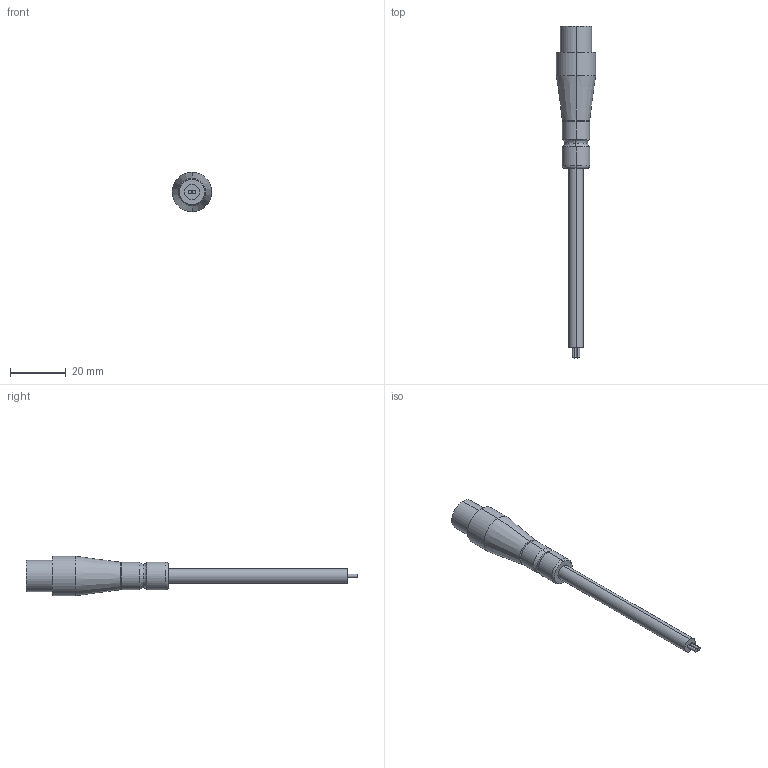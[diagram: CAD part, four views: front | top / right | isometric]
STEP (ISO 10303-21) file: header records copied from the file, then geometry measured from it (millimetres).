
FILE_DESCRIPTION (( 'STEP AP214' ), '1' );
FILE_NAME ('Fitting Conductivity Leak Detect 2 .STEP', '2012-10-29T14:23:09', ( '' ), ( '' ), 'SwSTEP 2.0', 'SolidWorks 2012', '' );
FILE_SCHEMA (( 'AUTOMOTIVE_DESIGN' ));
Length unit declared in the file: inch
Products named in the file (1): Fitting Conductivity Leak Detect 2 
Bounding box: 14.1 x 118.74 x 14.1 mm (x, y, z)
Volume: 6720.9 mm3; surface area: 3543.9 mm2
Topology: 6 solids, 6 shells, 46 faces, 80 edges, 50 vertices
Faces by surface type: cylinder 20, plane 16, bspline 6, cone 4
Entity records: 1352 total; most frequent: CARTESIAN_POINT 315, DIRECTION 210, ORIENTED_EDGE 160, AXIS2_PLACEMENT_3D 93, EDGE_CURVE 80, CIRCLE 52, EDGE_LOOP 50, VERTEX_POINT 50
